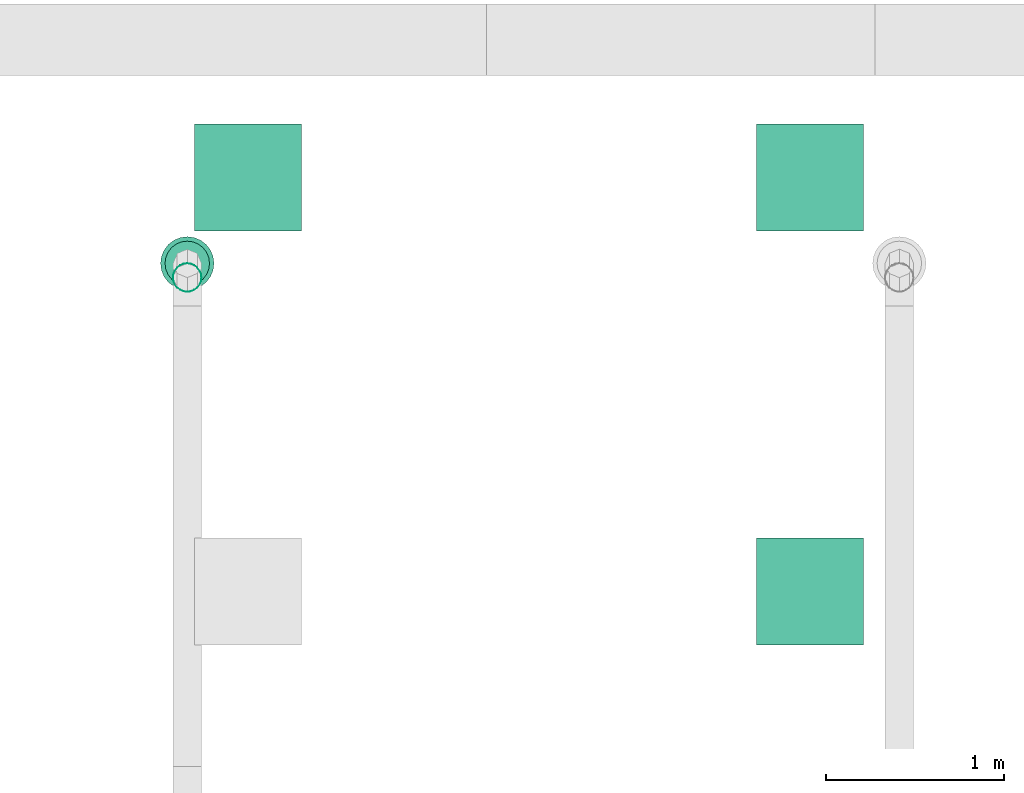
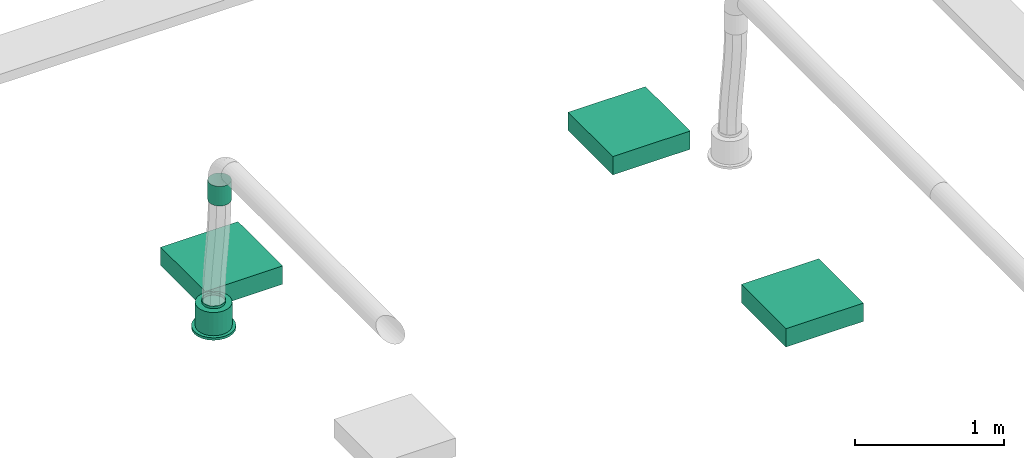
# One storey, part 44 of 374: 3 distribution elements, 1 flow segment, 1 flow terminal.
"""IFC2X3 building model written with IfcOpenShell, lengths in metres."""

import ifcopenshell
import ifcopenshell.guid

model = None  # the IFC model being written
_history = None  # IfcOwnerHistory: only IFC2X3 demands one
_inside = {}  # id of a spatial element -> (the spatial element, [elements in it])
_under = {}  # id of a project, library or spatial element -> (it, [spatial elements below it])
_declared = {}  # id of a project -> (the project, [libraries it declares])
_typed = {}  # id of a type object -> (the type object, [elements of that type])
_made_of = {}  # id of a material, layer set ... -> (it, [elements and type objects made of it])


def new_model(schema):
    """Start an empty IFC model of exactly this schema.

    Asked for "IFC4X3", IfcOpenShell would pick the latest addendum, in which some entities
    have other attributes; the version numbers below select the first issue.
    IFC2X3 requires an IfcOwnerHistory on every rooted entity: one is made here for all.
    """
    global model, _history
    if schema == "IFC4X3":
        model = ifcopenshell.file(schema_version=(4, 3, 0, 0))
    else:
        model = ifcopenshell.file(schema=schema)
    _inside.clear()
    _under.clear()
    _declared.clear()
    _typed.clear()
    _made_of.clear()
    _history = None
    if model.schema == "IFC2X3":
        org = make("IfcOrganization", Name="unknown")
        user = make(
            "IfcPersonAndOrganization",
            ThePerson=make("IfcPerson", FamilyName="unknown"),
            TheOrganization=org,
        )
        app = make(
            "IfcApplication",
            ApplicationDeveloper=org,
            Version="unknown",
            ApplicationFullName="unknown",
            ApplicationIdentifier="unknown",
        )
        _history = make(
            "IfcOwnerHistory",
            OwningUser=user,
            OwningApplication=app,
            ChangeAction="ADDED",
            CreationDate=0,
        )
    return model


def make(cls, **values):
    """One entity of the class cls with the attributes given. An attribute that is None is left unset."""
    return model.create_entity(
        cls, **{name: value for name, value in values.items() if value is not None}
    )


def rooted(cls, **values):
    """An entity with a GlobalId (a new one), such as an element, a storey or a relation."""
    return make(cls, GlobalId=ifcopenshell.guid.new(), OwnerHistory=_history, **values)


def si_unit(unit_type, name, prefix=None):
    """IfcSIUnit, for example si_unit("LENGTHUNIT", "METRE", prefix="MILLI")."""
    return make("IfcSIUnit", UnitType=unit_type, Prefix=prefix, Name=name)


def assignment(units):
    """IfcUnitAssignment: the units of a project."""
    return None if units is None else make("IfcUnitAssignment", Units=units)


def point(xyz):
    """IfcCartesianPoint."""
    return None if xyz is None else make("IfcCartesianPoint", Coordinates=xyz)


def direction(xyz):
    """IfcDirection."""
    return None if xyz is None else make("IfcDirection", DirectionRatios=xyz)


def frame(location, z_axis=None, x_axis=None):
    """IfcAxis2Placement3D, a coordinate frame: its origin and axes. An axis left out is left unset."""
    return make(
        "IfcAxis2Placement3D",
        Location=point(location),
        Axis=direction(z_axis),
        RefDirection=direction(x_axis),
    )


def frame_2d(location, x_axis=None):
    """IfcAxis2Placement2D, a coordinate frame in the plane: its origin and x axis."""
    return make(
        "IfcAxis2Placement2D", Location=point(location), RefDirection=direction(x_axis)
    )


def origin():
    """The frame at (0, 0, 0) with its axes left unset."""
    return frame((0.0, 0.0, 0.0))


def place(relative_to, where):
    """IfcLocalPlacement: puts the frame where relative to a parent placement (None: the world)."""
    return make(
        "IfcLocalPlacement", PlacementRelTo=relative_to, RelativePlacement=where
    )


def context(
    kind, dimensions, precision=None, world=None, true_north=None, identifier=None
):
    """IfcGeometricRepresentationContext, for example the 3D "Model" context."""
    return make(
        "IfcGeometricRepresentationContext",
        ContextIdentifier=identifier,
        ContextType=kind,
        CoordinateSpaceDimension=dimensions,
        Precision=precision,
        WorldCoordinateSystem=world,
        TrueNorth=true_north,
    )


def subcontext(parent, identifier, kind, view, scale=None):
    """IfcGeometricRepresentationSubContext, for example "Body" below "Model"."""
    return make(
        "IfcGeometricRepresentationSubContext",
        ContextIdentifier=identifier,
        ContextType=kind,
        ParentContext=parent,
        TargetScale=scale,
        TargetView=view,
    )


def project(units=None, contexts=None):
    """IfcProject with its units and contexts."""
    return rooted(
        "IfcProject",
        Name="project",
        RepresentationContexts=contexts,
        UnitsInContext=assignment(units),
    )


def spatial(cls, under=None, at=None, **own):
    """A site, building, storey or space (cls), placed at a placement, below another one or the project."""
    s = rooted(cls, ObjectPlacement=at, **own)
    if under is not None:
        _under.setdefault(under.id(), (under, []))[1].append(s)
    return s


def profile(cls, at=None, kind="AREA", **sizes):
    """A parametric profile (cls). Its sizes go by their IFC names, for example OverallWidth=200.0."""
    return make(cls, ProfileType=kind, Position=at, **sizes)


def rectangle(**sizes):
    """IfcRectangleProfileDef."""
    return profile("IfcRectangleProfileDef", **sizes)


def extrude(swept, where, along, depth):
    """IfcExtrudedAreaSolid: the profile swept, set in the frame where, extruded along a direction by depth."""
    return make(
        "IfcExtrudedAreaSolid",
        SweptArea=swept,
        Position=where,
        ExtrudedDirection=direction(along),
        Depth=depth,
    )


def faces_of(points, faces, orient=None, outer=None):
    """IfcFace entities. A face is a list of loops; a loop is a list of indices into points, from 0.

    orient and outer hold one flag for each loop. By default every Orientation is true, the
    first loop of a face is its IfcFaceOuterBound and the others are IfcFaceBound.
    """
    made = []
    for i, loops in enumerate(faces):
        bounds = []
        for j, loop in enumerate(loops):
            is_outer = j == 0 if outer is None else outer[i][j]
            bounds.append(
                make(
                    "IfcFaceOuterBound" if is_outer else "IfcFaceBound",
                    Bound=make("IfcPolyLoop", Polygon=[points[k] for k in loop]),
                    Orientation=True if orient is None else orient[i][j],
                )
            )
        made.append(make("IfcFace", Bounds=bounds))
    return made


def open_shell(faces, orient=None, outer=None):
    """The faces of one IfcOpenShell. surface_model builds it on its shared points."""
    return ("IfcOpenShell", faces, orient, outer)


def surface_model(cls, points, shells):
    """IfcFaceBasedSurfaceModel or IfcShellBasedSurfaceModel (cls): surfaces that need not close."""
    shared = [point(p) for p in points]
    made = [make(c, CfsFaces=faces_of(shared, fs, o, b)) for c, fs, o, b in shells]
    if cls == "IfcFaceBasedSurfaceModel":
        return make(cls, FbsmFaces=made)
    return make(cls, SbsmBoundary=made)


def shape(context_of_items, identifier, shape_type, items):
    """IfcShapeRepresentation: the items that make up one representation, for example the "Body"."""
    return make(
        "IfcShapeRepresentation",
        ContextOfItems=context_of_items,
        RepresentationIdentifier=identifier,
        RepresentationType=shape_type,
        Items=items,
    )


def source(mapping_origin, context_of_items, identifier, shape_type, items):
    """IfcRepresentationMap: a shape defined once, which mapped items show again and again."""
    return make(
        "IfcRepresentationMap",
        MappingOrigin=mapping_origin,
        MappedRepresentation=shape(context_of_items, identifier, shape_type, items),
    )


def transform(
    local_origin,
    x_axis=None,
    y_axis=None,
    z_axis=None,
    scale=None,
    scale2=None,
    scale3=None,
    uniform=True,
):
    """IfcCartesianTransformationOperator3D, or its non-uniform kind. x_axis, y_axis, z_axis: its Axis1, 2, 3."""
    if uniform:
        return make(
            "IfcCartesianTransformationOperator3D",
            Axis1=direction(x_axis),
            Axis2=direction(y_axis),
            LocalOrigin=point(local_origin),
            Scale=scale,
            Axis3=direction(z_axis),
        )
    return make(
        "IfcCartesianTransformationOperator3DnonUniform",
        Axis1=direction(x_axis),
        Axis2=direction(y_axis),
        LocalOrigin=point(local_origin),
        Scale=scale,
        Axis3=direction(z_axis),
        Scale2=scale2,
        Scale3=scale3,
    )


def mapped(mapping_source, mapping_target):
    """IfcMappedItem: shows the shape of a source again, moved by a transform."""
    return make(
        "IfcMappedItem", MappingSource=mapping_source, MappingTarget=mapping_target
    )


def made_of(thing, what):
    """Note that an element or type object is made of a material, layer set ...; save() writes the relation."""
    if what is not None:
        _made_of.setdefault(what.id(), (what, []))[1].append(thing)
    return thing


def element(
    cls,
    number,
    at=None,
    inside=None,
    cuts=None,
    type_object=None,
    material=None,
    context=None,
    identifier="Body",
    shape_type=None,
    held_by="IfcProductDefinitionShape",
    body=None,
    shapes=None,
    **own,
):
    """One element of the class cls, such as IfcWall. Its Tag is "e" and its number.

    at: its placement. inside: the storey or other place that contains it. cuts: it is an
    opening in that element (IfcRelVoidsElement). A single representation is given by context,
    identifier, shape_type and body (its items); several are given by shapes. held_by: the class
    of the entity that holds the representations. save() writes the other relations.
    """
    e = rooted(cls, Tag="e%d" % number, ObjectPlacement=at, **own)
    if body is not None:
        shapes = [shape(context, identifier, shape_type, body)]
    if shapes is not None:
        e.Representation = make(held_by, Representations=shapes)
    if inside is not None:
        _inside.setdefault(inside.id(), (inside, []))[1].append(e)
    if cuts is not None:
        rooted(
            "IfcRelVoidsElement", RelatingBuildingElement=cuts, RelatedOpeningElement=e
        )
    if type_object is not None:
        _typed.setdefault(type_object.id(), (type_object, []))[1].append(e)
    return made_of(e, material)


def aggregate(whole, parts):
    """IfcRelAggregates: a whole, such as a stair, and the parts it consists of."""
    return rooted("IfcRelAggregates", RelatingObject=whole, RelatedObjects=parts)


def save(model, path):
    """Write the relations noted so far, then the file.

    IfcRelAggregates (storeys below a building ...), IfcRelContainedInSpatialStructure (elements
    in a storey), IfcRelDefinesByType, IfcRelAssociatesMaterial and IfcRelDeclares: one each for
    every whole, place, type object, material and project.
    """
    for whole, parts in _under.values():
        aggregate(whole, parts)
    for where, things in _inside.values():
        rooted(
            "IfcRelContainedInSpatialStructure",
            RelatedElements=things,
            RelatingStructure=where,
        )
    for kind, things in _typed.values():
        rooted("IfcRelDefinesByType", RelatedObjects=things, RelatingType=kind)
    for what, things in _made_of.values():
        rooted("IfcRelAssociatesMaterial", RelatedObjects=things, RelatingMaterial=what)
    for by, libraries in _declared.values():
        rooted("IfcRelDeclares", RelatingContext=by, RelatedDefinitions=libraries)
    model.write(path)


model = new_model("IFC2X3")

# Units and contexts
model_context = context("Model", 3, precision=1e-05, world=origin(), true_north=direction((-0.4480736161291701, 0.8939966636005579)))
body_context = subcontext(model_context, "Body", "Model", "MODEL_VIEW")
ifc_project = project(units=[si_unit("LENGTHUNIT", "METRE"), si_unit("AREAUNIT", "SQUARE_METRE"), si_unit("VOLUMEUNIT", "CUBIC_METRE"), si_unit("PLANEANGLEUNIT", "RADIAN"), si_unit("THERMODYNAMICTEMPERATUREUNIT", "KELVIN"), si_unit("MASSUNIT", "GRAM", prefix="KILO"), si_unit("TIMEUNIT", "SECOND")], contexts=[model_context])

# Site, building, storey
site_placement = place(None, origin())
site = spatial("IfcSite", under=ifc_project, at=site_placement, Name="Site 1", CompositionType="ELEMENT")
building_placement = place(site_placement, origin())
building = spatial("IfcBuilding", under=site, at=building_placement, Name="Undefined", CompositionType="ELEMENT")
storey_placement = place(building_placement, origin())
storey = spatial("IfcBuildingStorey", under=building, at=storey_placement, Name="Rez de chauss\x8ee", CompositionType="ELEMENT", Elevation=0.0)

# Flow terminal
shared_shape_1 = source(origin(), body_context, "Body", "SurfaceModel", [
    surface_model("IfcFaceBasedSurfaceModel", [(0.0, 0.0, 0.0), (0.03915785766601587, 0.0, 0.0), (0.03915785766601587, 0.020000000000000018, 0.0), (3.552713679e-15, 0.020000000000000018, 0.0), (0.07698144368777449, 0.0, -0.010134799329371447), (0.07698144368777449, 0.020000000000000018, -0.010134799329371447), (0.11089314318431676, 0.0, -0.02971372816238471), (0.11089314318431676, 0.020000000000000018, -0.02971372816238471), (0.13858192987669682, 0.0, -0.05740251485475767), (0.13858192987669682, 0.020000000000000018, -0.05740251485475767), (0.15816085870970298, 0.0, -0.09131421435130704), (0.15816085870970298, 0.020000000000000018, -0.09131421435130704), (0.16829565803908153, 0.0, -0.12913780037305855), (0.16829565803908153, 0.020000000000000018, -0.12913780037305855), (0.16829565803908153, 0.0, -0.16829565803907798), (0.16829565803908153, 0.020000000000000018, -0.16829565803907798), (0.15816085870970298, 0.0, -0.20611924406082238), (0.15816085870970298, 0.020000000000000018, -0.20611924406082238), (0.13858192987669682, 0.0, -0.24003094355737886), (0.13858192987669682, 0.020000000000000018, -0.24003094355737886), (0.11089314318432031, 0.0, -0.2677197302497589), (0.11089314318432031, 0.020000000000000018, -0.2677197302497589), (0.07698144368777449, 0.0, -0.2872986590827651), (0.07698144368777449, 0.020000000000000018, -0.2872986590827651), (0.039157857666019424, 0.0, -0.29743345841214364), (0.039157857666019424, 0.020000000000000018, -0.29743345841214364), (3.552713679e-15, 0.0, -0.29743345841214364), (3.552713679e-15, 0.020000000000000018, -0.29743345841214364), (-0.03782358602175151, 0.0, -0.2872986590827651), (-0.03782358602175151, 0.020000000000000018, -0.2872986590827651), (-0.07173528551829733, 0.0, -0.2677197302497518), (-0.07173528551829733, 0.020000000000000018, -0.2677197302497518), (-0.0994240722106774, 0.0, -0.24003094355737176), (-0.0994240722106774, 0.020000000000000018, -0.24003094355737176), (-0.11900300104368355, 0.0, -0.2061192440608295), (-0.11900300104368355, 0.020000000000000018, -0.2061192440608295), (-0.1291378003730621, 0.0, -0.16829565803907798), (-0.1291378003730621, 0.020000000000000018, -0.16829565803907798), (-0.1291378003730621, 0.0, -0.12913780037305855), (-0.1291378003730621, 0.020000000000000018, -0.12913780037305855), (-0.11900300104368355, 0.0, -0.09131421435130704), (-0.11900300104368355, 0.020000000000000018, -0.09131421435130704), (-0.0994240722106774, 0.0, -0.05740251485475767), (-0.0994240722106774, 0.020000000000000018, -0.05740251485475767), (-0.07173528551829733, 0.0, -0.029713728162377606), (-0.07173528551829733, 0.020000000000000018, -0.029713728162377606), (-0.03782358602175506, 0.0, -0.010134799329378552), (-0.03782358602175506, 0.020000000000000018, -0.010134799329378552), (0.019578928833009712, 0.0, -0.14871672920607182), (0.019578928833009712, 0.020000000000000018, -0.14871672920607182), (0.003263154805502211, 0.020000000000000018, -0.02478612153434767), (0.035894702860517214, 0.020000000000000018, -0.02478612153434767), (0.035894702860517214, 0.20999999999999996, -0.02478612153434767), (0.003263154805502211, 0.20999999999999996, -0.02478612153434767), (0.06741435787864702, 0.020000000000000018, -0.033231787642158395), (0.06741435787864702, 0.20999999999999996, -0.033231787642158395), (0.0956741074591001, 0.020000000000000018, -0.04954756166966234), (0.0956741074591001, 0.20999999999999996, -0.04954756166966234), (0.11874809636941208, 0.020000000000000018, -0.07262155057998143), (0.11874809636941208, 0.20999999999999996, -0.07262155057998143), (0.13506387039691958, 0.020000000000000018, -0.10088130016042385), (0.13506387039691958, 0.20999999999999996, -0.10088130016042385), (0.1435095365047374, 0.020000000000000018, -0.13240095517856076), (0.1435095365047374, 0.20999999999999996, -0.13240095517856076), (0.1435095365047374, 0.020000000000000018, -0.16503250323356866), (0.1435095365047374, 0.20999999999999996, -0.16503250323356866), (0.13506387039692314, 0.020000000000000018, -0.19655215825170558), (0.13506387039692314, 0.20999999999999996, -0.19655215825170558), (0.11874809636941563, 0.020000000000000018, -0.2248119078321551), (0.11874809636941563, 0.20999999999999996, -0.2248119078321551), (0.09567410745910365, 0.020000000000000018, -0.24788589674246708), (0.09567410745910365, 0.20999999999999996, -0.24788589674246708), (0.06741435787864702, 0.020000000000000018, -0.26420167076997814), (0.06741435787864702, 0.20999999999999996, -0.26420167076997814), (0.035894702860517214, 0.020000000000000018, -0.27264733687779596), (0.035894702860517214, 0.20999999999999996, -0.27264733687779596), (0.0032631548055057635, 0.020000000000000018, -0.27264733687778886), (0.0032631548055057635, 0.20999999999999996, -0.27264733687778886), (-0.028256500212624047, 0.020000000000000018, -0.26420167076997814), (-0.028256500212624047, 0.20999999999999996, -0.26420167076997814), (-0.05651624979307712, 0.020000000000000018, -0.2478858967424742), (-0.05651624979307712, 0.20999999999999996, -0.2478858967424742), (-0.07959023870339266, 0.020000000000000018, -0.2248119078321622), (-0.07959023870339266, 0.20999999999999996, -0.2248119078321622), (-0.09590601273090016, 0.020000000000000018, -0.19655215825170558), (-0.09590601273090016, 0.20999999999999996, -0.19655215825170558), (-0.10435167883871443, 0.020000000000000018, -0.16503250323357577), (-0.10435167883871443, 0.20999999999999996, -0.16503250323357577), (-0.10435167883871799, 0.020000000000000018, -0.13240095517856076), (-0.10435167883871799, 0.20999999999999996, -0.13240095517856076), (-0.09590601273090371, 0.020000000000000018, -0.10088130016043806), (-0.09590601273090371, 0.20999999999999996, -0.10088130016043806), (-0.07959023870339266, 0.020000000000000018, -0.07262155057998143), (-0.07959023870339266, 0.20999999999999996, -0.07262155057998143), (-0.056516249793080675, 0.020000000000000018, -0.04954756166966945), (-0.056516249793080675, 0.20999999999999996, -0.04954756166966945), (-0.028256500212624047, 0.020000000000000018, -0.033231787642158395), (-0.028256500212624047, 0.20999999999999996, -0.033231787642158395), (0.019578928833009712, 0.20999999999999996, -0.14871672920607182), (0.009136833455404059, 0.20999999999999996, -0.06940114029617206), (0.030021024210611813, 0.20999999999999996, -0.06940114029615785), (0.030021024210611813, 0.22999999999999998, -0.06940114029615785), (0.009136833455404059, 0.22999999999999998, -0.06940114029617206), (0.05019360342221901, 0.20999999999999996, -0.07480636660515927), (0.05019360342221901, 0.22999999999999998, -0.07480636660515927), (0.06827984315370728, 0.20999999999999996, -0.08524846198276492), (0.06827984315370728, 0.22999999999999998, -0.08524846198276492), (0.0830471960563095, 0.20999999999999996, -0.10001581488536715), (0.0830471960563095, 0.22999999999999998, -0.10001581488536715), (0.0934892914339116, 0.20999999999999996, -0.11810205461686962), (0.0934892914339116, 0.22999999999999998, -0.11810205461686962), (0.09889451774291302, 0.20999999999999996, -0.13827463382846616), (0.09889451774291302, 0.22999999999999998, -0.13827463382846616), (0.09889451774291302, 0.20999999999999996, -0.15915882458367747), (0.09889451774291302, 0.22999999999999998, -0.15915882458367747), (0.09348929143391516, 0.20999999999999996, -0.179331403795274), (0.09348929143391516, 0.22999999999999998, -0.179331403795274), (0.0830471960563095, 0.20999999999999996, -0.19741764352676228), (0.0830471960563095, 0.22999999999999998, -0.19741764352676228), (0.06827984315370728, 0.20999999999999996, -0.2121849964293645), (0.06827984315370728, 0.22999999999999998, -0.2121849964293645), (0.05019360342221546, 0.20999999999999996, -0.22262709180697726), (0.05019360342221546, 0.22999999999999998, -0.22262709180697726), (0.030021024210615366, 0.20999999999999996, -0.22803231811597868), (0.030021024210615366, 0.22999999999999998, -0.22803231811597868), (0.009136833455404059, 0.20999999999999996, -0.22803231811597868), (0.009136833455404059, 0.22999999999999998, -0.22803231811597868), (-0.011035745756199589, 0.20999999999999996, -0.22262709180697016), (-0.011035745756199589, 0.22999999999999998, -0.22262709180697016), (-0.0291219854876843, 0.20999999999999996, -0.2121849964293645), (-0.0291219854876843, 0.22999999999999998, -0.2121849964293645), (-0.043889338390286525, 0.20999999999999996, -0.19741764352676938), (-0.043889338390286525, 0.22999999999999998, -0.19741764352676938), (-0.05433143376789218, 0.20999999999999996, -0.17933140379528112), (-0.05433143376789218, 0.22999999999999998, -0.17933140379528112), (-0.05973666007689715, 0.20999999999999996, -0.15915882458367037), (-0.05973666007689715, 0.22999999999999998, -0.15915882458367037), (-0.0597366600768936, 0.20999999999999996, -0.13827463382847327), (-0.0597366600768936, 0.22999999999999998, -0.13827463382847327), (-0.05433143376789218, 0.20999999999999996, -0.11810205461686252), (-0.05433143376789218, 0.22999999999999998, -0.11810205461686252), (-0.043889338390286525, 0.20999999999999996, -0.10001581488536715), (-0.043889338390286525, 0.22999999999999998, -0.10001581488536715), (-0.02912198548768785, 0.20999999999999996, -0.08524846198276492), (-0.02912198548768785, 0.22999999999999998, -0.08524846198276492), (-0.011035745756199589, 0.20999999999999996, -0.07480636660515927), (-0.011035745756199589, 0.22999999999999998, -0.07480636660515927)], [open_shell([[[0, 1, 2, 3]], [[1, 4, 5, 2]], [[4, 6, 7, 5]], [[6, 8, 9, 7]], [[8, 10, 11, 9]], [[10, 12, 13, 11]], [[12, 14, 15, 13]], [[14, 16, 17, 15]], [[16, 18, 19, 17]], [[18, 20, 21, 19]], [[20, 22, 23, 21]], [[22, 24, 25, 23]], [[24, 26, 27, 25]], [[26, 28, 29, 27]], [[28, 30, 31, 29]], [[30, 32, 33, 31]], [[32, 34, 35, 33]], [[34, 36, 37, 35]], [[36, 38, 39, 37]], [[38, 40, 41, 39]], [[40, 42, 43, 41]], [[42, 44, 45, 43]], [[44, 46, 47, 45]], [[46, 0, 3, 47]], [[48, 1, 0]], [[48, 4, 1]], [[48, 6, 4]], [[48, 8, 6]], [[48, 10, 8]], [[48, 12, 10]], [[48, 14, 12]], [[48, 16, 14]], [[48, 18, 16]], [[48, 20, 18]], [[48, 22, 20]], [[48, 24, 22]], [[48, 26, 24]], [[48, 28, 26]], [[48, 30, 28]], [[48, 32, 30]], [[48, 34, 32]], [[48, 36, 34]], [[48, 38, 36]], [[48, 40, 38]], [[48, 42, 40]], [[48, 44, 42]], [[48, 46, 44]], [[48, 0, 46]], [[49, 47, 3]], [[49, 45, 47]], [[49, 43, 45]], [[49, 41, 43]], [[49, 39, 41]], [[49, 37, 39]], [[49, 35, 37]], [[49, 33, 35]], [[49, 31, 33]], [[49, 29, 31]], [[49, 27, 29]], [[49, 25, 27]], [[49, 23, 25]], [[49, 21, 23]], [[49, 19, 21]], [[49, 17, 19]], [[49, 15, 17]], [[49, 13, 15]], [[49, 11, 13]], [[49, 9, 11]], [[49, 7, 9]], [[49, 5, 7]], [[49, 2, 5]], [[49, 3, 2]], [[50, 51, 52, 53]], [[51, 54, 55, 52]], [[54, 56, 57, 55]], [[56, 58, 59, 57]], [[58, 60, 61, 59]], [[60, 62, 63, 61]], [[62, 64, 65, 63]], [[64, 66, 67, 65]], [[66, 68, 69, 67]], [[68, 70, 71, 69]], [[70, 72, 73, 71]], [[72, 74, 75, 73]], [[74, 76, 77, 75]], [[76, 78, 79, 77]], [[78, 80, 81, 79]], [[80, 82, 83, 81]], [[82, 84, 85, 83]], [[84, 86, 87, 85]], [[86, 88, 89, 87]], [[88, 90, 91, 89]], [[90, 92, 93, 91]], [[92, 94, 95, 93]], [[94, 96, 97, 95]], [[96, 50, 53, 97]], [[49, 51, 50]], [[49, 54, 51]], [[49, 56, 54]], [[49, 58, 56]], [[49, 60, 58]], [[49, 62, 60]], [[49, 64, 62]], [[49, 66, 64]], [[49, 68, 66]], [[49, 70, 68]], [[49, 72, 70]], [[49, 74, 72]], [[49, 76, 74]], [[49, 78, 76]], [[49, 80, 78]], [[49, 82, 80]], [[49, 84, 82]], [[49, 86, 84]], [[49, 88, 86]], [[49, 90, 88]], [[49, 92, 90]], [[49, 94, 92]], [[49, 96, 94]], [[49, 50, 96]], [[98, 97, 53]], [[98, 95, 97]], [[98, 93, 95]], [[98, 91, 93]], [[98, 89, 91]], [[98, 87, 89]], [[98, 85, 87]], [[98, 83, 85]], [[98, 81, 83]], [[98, 79, 81]], [[98, 77, 79]], [[98, 75, 77]], [[98, 73, 75]], [[98, 71, 73]], [[98, 69, 71]], [[98, 67, 69]], [[98, 65, 67]], [[98, 63, 65]], [[98, 61, 63]], [[98, 59, 61]], [[98, 57, 59]], [[98, 55, 57]], [[98, 52, 55]], [[98, 53, 52]], [[99, 100, 101, 102]], [[100, 103, 104, 101]], [[103, 105, 106, 104]], [[105, 107, 108, 106]], [[107, 109, 110, 108]], [[109, 111, 112, 110]], [[111, 113, 114, 112]], [[113, 115, 116, 114]], [[115, 117, 118, 116]], [[117, 119, 120, 118]], [[119, 121, 122, 120]], [[121, 123, 124, 122]], [[123, 125, 126, 124]], [[125, 127, 128, 126]], [[127, 129, 130, 128]], [[129, 131, 132, 130]], [[131, 133, 134, 132]], [[133, 135, 136, 134]], [[135, 137, 138, 136]], [[137, 139, 140, 138]], [[139, 141, 142, 140]], [[141, 143, 144, 142]], [[143, 145, 146, 144]], [[145, 99, 102, 146]]])]),
])
flow_terminal_placement = place(storey_placement, origin())
element("IfcFlowTerminal", 1, at=flow_terminal_placement, inside=storey, Name="Air diffuseur - bouche", ObjectType="Air diffuseur - bouche", context=body_context, shape_type="MappedRepresentation", body=[
    mapped(shared_shape_1, transform((22.98005357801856, 16.80529701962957, 2.38), x_axis=(0.9914448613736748, 0.13052619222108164, 0.0), y_axis=(0.0, 0.0, 1.0), z_axis=(0.13052619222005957, -0.9914448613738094, 0.0))),
])

# Flow segment
shared_shape_2 = source(origin(), body_context, "Body", "SurfaceModel", [
    surface_model("IfcFaceBasedSurfaceModel", [(0.0, 0.020884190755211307, 0.0), (0.0, 0.0, 0.0), (0.16000000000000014, 0.0, -4.4408921e-16), (0.16000000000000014, 0.0208841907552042, -4.4408921e-16), (0.0, -0.020172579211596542, -0.005405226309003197), (0.16000000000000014, -0.020172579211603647, -0.005405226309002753), (0.0, -0.03825881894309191, -0.015847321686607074), (0.16000000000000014, -0.03825881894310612, -0.015847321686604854), (0.0, -0.05302617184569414, -0.0306146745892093), (0.16000000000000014, -0.05302617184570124, -0.03061467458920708), (0.0, -0.06346826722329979, -0.04870091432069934), (0.16000000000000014, -0.0634682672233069, -0.04870091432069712), (0.0, -0.06887349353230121, -0.06887349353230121), (0.16000000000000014, -0.06887349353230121, -0.06887349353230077), (0.0, -0.06887349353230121, -0.08975768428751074), (0.16000000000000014, -0.06887349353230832, -0.08975768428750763), (0.0, -0.06346826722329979, -0.10993026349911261), (0.16000000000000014, -0.0634682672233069, -0.10993026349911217), (0.0, -0.05302617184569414, -0.12801650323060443), (0.16000000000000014, -0.05302617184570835, -0.1280165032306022), (0.0, -0.038258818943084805, -0.14278385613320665), (0.16000000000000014, -0.03825881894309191, -0.14278385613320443), (0.0, -0.020172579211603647, -0.15322595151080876), (0.16000000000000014, -0.020172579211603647, -0.1532259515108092), (0.0, 7.105427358e-15, -0.15863117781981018), (0.16000000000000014, -7.105427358e-15, -0.15863117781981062), (0.0, 0.020884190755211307, -0.15863117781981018), (0.16000000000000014, 0.0208841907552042, -0.15863117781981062), (0.0, 0.04105676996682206, -0.15322595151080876), (0.16000000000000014, 0.04105676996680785, -0.1532259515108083), (0.0, 0.05914300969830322, -0.1427838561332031), (0.16000000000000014, 0.05914300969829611, -0.14278385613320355), (0.0, 0.07391036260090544, -0.12801650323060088), (0.16000000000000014, 0.07391036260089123, -0.1280165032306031), (0.0, 0.0843524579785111, -0.10993026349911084), (0.16000000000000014, 0.08435245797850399, -0.10993026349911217), (0.0, 0.08975768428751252, -0.08975768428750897), (0.16000000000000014, 0.08975768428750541, -0.08975768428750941), (0.0, 0.08975768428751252, -0.06887349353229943), (0.16000000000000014, 0.08975768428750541, -0.06887349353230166), (0.0, 0.0843524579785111, -0.048700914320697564), (0.16000000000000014, 0.08435245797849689, -0.04870091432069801), (0.0, 0.07391036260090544, -0.030614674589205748), (0.16000000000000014, 0.07391036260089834, -0.03061467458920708), (0.0, 0.05914300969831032, -0.015847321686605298), (0.16000000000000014, 0.05914300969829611, -0.01584732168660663), (0.0, 0.04105676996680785, -0.005405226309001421), (0.16000000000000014, 0.04105676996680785, -0.005405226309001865)], [open_shell([[[0, 1, 2, 3]], [[1, 4, 5, 2]], [[4, 6, 7, 5]], [[6, 8, 9, 7]], [[8, 10, 11, 9]], [[10, 12, 13, 11]], [[12, 14, 15, 13]], [[14, 16, 17, 15]], [[16, 18, 19, 17]], [[18, 20, 21, 19]], [[20, 22, 23, 21]], [[22, 24, 25, 23]], [[24, 26, 27, 25]], [[26, 28, 29, 27]], [[28, 30, 31, 29]], [[30, 32, 33, 31]], [[32, 34, 35, 33]], [[34, 36, 37, 35]], [[36, 38, 39, 37]], [[38, 40, 41, 39]], [[40, 42, 43, 41]], [[42, 44, 45, 43]], [[44, 46, 47, 45]], [[46, 0, 3, 47]]])]),
])
flow_segment_placement = place(storey_placement, origin())
element("IfcFlowSegment", 2, at=flow_segment_placement, inside=storey, Name="Tube", ObjectType="Tube", context=body_context, shape_type="MappedRepresentation", body=[
    mapped(shared_shape_2, transform((23.000759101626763, 16.798022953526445, 3.4800000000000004), x_axis=(0.0, 0.0, 1.0), y_axis=(-0.9914448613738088, -0.13052619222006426, 0.0), z_axis=(0.13052619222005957, -0.9914448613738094, 0.0))),
])

# Distribution elements
distribution_element_1_placement = place(storey_placement, origin())
element("IfcDistributionElement", 3, at=distribution_element_1_placement, inside=storey, Name="Decken-Rechteckleuchte mit Rahmen AP", ObjectType="Decken-Rechteckleuchte mit Rahmen AP", context=body_context, shape_type="SweptSolid", body=[
    extrude(rectangle(XDim=0.6000000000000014, YDim=0.6000000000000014, at=frame_2d((3.552713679e-15, 0.0), x_axis=(0.0, 1.0))), frame((23.320441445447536, 17.437499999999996, 2.5500000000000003), z_axis=(0.0, 0.0, -1.0), x_axis=(1.0, 0.0, 0.0)), (0.0, 0.0, 1.0), 0.15),
])
distribution_element_2_placement = place(storey_placement, origin())
element("IfcDistributionElement", 4, at=distribution_element_2_placement, inside=storey, Name="Decken-Rechteckleuchte mit Rahmen AP", ObjectType="Decken-Rechteckleuchte mit Rahmen AP", context=body_context, shape_type="SweptSolid", body=[
    extrude(rectangle(XDim=0.6000000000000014, YDim=0.6000000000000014, at=frame_2d((3.552713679e-15, 0.0), x_axis=(0.0, 1.0))), frame((26.478283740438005, 17.437499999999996, 2.5500000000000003), z_axis=(0.0, 0.0, -1.0), x_axis=(1.0, 0.0, 0.0)), (0.0, 0.0, 1.0), 0.15),
])
distribution_element_3_placement = place(storey_placement, origin())
element("IfcDistributionElement", 5, at=distribution_element_3_placement, inside=storey, Name="Decken-Rechteckleuchte mit Rahmen AP", ObjectType="Decken-Rechteckleuchte mit Rahmen AP", context=body_context, shape_type="SweptSolid", body=[
    extrude(rectangle(XDim=0.6000000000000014, YDim=0.6000000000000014, at=frame_2d((3.552713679e-15, 0.0), x_axis=(0.0, 1.0))), frame((26.478283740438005, 15.1125, 2.5500000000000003), z_axis=(0.0, 0.0, -1.0), x_axis=(1.0, 0.0, 0.0)), (0.0, 0.0, 1.0), 0.15),
])

save(model, "model.ifc")
